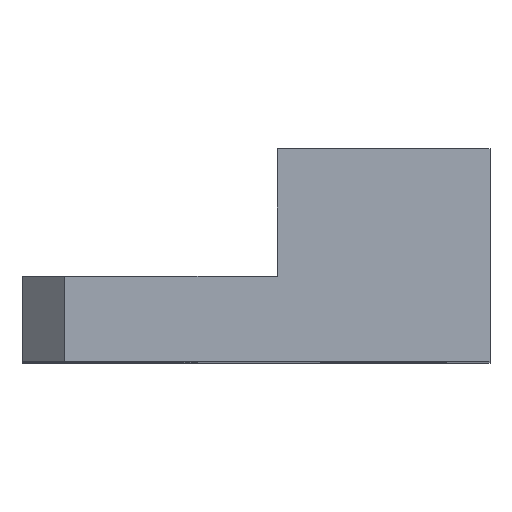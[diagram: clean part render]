
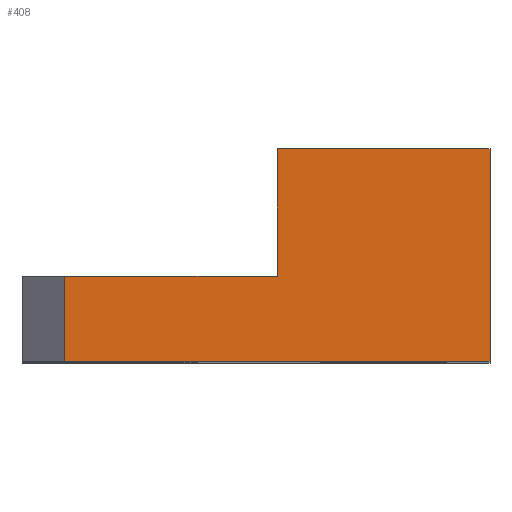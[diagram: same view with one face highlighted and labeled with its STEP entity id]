
A CAD part, top view. The second image highlights one B-rep face of the part: STEP entity #408.
In plain terms, the highlighted planar face has unit normal (0, 0, 1).
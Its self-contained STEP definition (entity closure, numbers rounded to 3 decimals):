
#2 = VERTEX_POINT ( 'NONE', #480 ) ;
#10 = EDGE_CURVE ( 'NONE', #140, #2, #469, .T. ) ;
#139 = EDGE_CURVE ( 'NONE', #148, #140, #724, .T. ) ;
#140 = VERTEX_POINT ( 'NONE', #720 ) ;
#146 = EDGE_CURVE ( 'NONE', #147, #148, #773, .T. ) ;
#147 = VERTEX_POINT ( 'NONE', #769 ) ;
#148 = VERTEX_POINT ( 'NONE', #768 ) ;
#218 = EDGE_CURVE ( 'NONE', #2, #298, #863, .T. ) ;
#298 = VERTEX_POINT ( 'NONE', #985 ) ;
#337 = ORIENTED_EDGE ( 'NONE', *, *, #349, .T. ) ;
#338 = ORIENTED_EDGE ( 'NONE', *, *, #146, .T. ) ;
#349 = EDGE_CURVE ( 'NONE', #350, #147, #1094, .T. ) ;
#350 = VERTEX_POINT ( 'NONE', #1090 ) ;
#408 = ADVANCED_FACE ( 'NONE', ( #1142 ), #1141, .T. ) ;
#409 = EDGE_LOOP ( 'NONE', ( #410, #411, #412, #413, #337, #338 ) ) ;
#410 = ORIENTED_EDGE ( 'NONE', *, *, #139, .T. ) ;
#411 = ORIENTED_EDGE ( 'NONE', *, *, #10, .T. ) ;
#412 = ORIENTED_EDGE ( 'NONE', *, *, #218, .T. ) ;
#413 = ORIENTED_EDGE ( 'NONE', *, *, #414, .F. ) ;
#414 = EDGE_CURVE ( 'NONE', #350, #298, #1204, .T. ) ;
#466 = DIRECTION ( 'NONE',  ( -1., 0., 0. ) ) ;
#467 = VECTOR ( 'NONE', #466, 1000. ) ;
#468 = CARTESIAN_POINT ( 'NONE',  ( -8.069, 10., 0. ) ) ;
#469 = LINE ( 'NONE', #468, #467 ) ;
#480 = CARTESIAN_POINT ( 'NONE',  ( -18.194, 10., 0. ) ) ;
#720 = CARTESIAN_POINT ( 'NONE',  ( -8.194, 10., 0. ) ) ;
#721 = DIRECTION ( 'NONE',  ( 0., -1., 0. ) ) ;
#722 = VECTOR ( 'NONE', #721, 1000. ) ;
#723 = CARTESIAN_POINT ( 'NONE',  ( -8.194, 9.875, 0. ) ) ;
#724 = LINE ( 'NONE', #723, #722 ) ;
#768 = CARTESIAN_POINT ( 'NONE',  ( -8.194, 16., 0. ) ) ;
#769 = CARTESIAN_POINT ( 'NONE',  ( 1.806, 16., 0. ) ) ;
#770 = DIRECTION ( 'NONE',  ( -1., 0., 0. ) ) ;
#771 = VECTOR ( 'NONE', #770, 1000. ) ;
#772 = CARTESIAN_POINT ( 'NONE',  ( -8.069, 16., 0. ) ) ;
#773 = LINE ( 'NONE', #772, #771 ) ;
#860 = DIRECTION ( 'NONE',  ( 0., -1., 0. ) ) ;
#861 = VECTOR ( 'NONE', #860, 1000. ) ;
#862 = CARTESIAN_POINT ( 'NONE',  ( -18.194, 9.875, 0. ) ) ;
#863 = LINE ( 'NONE', #862, #861 ) ;
#985 = CARTESIAN_POINT ( 'NONE',  ( -18.194, 6., 0. ) ) ;
#1090 = CARTESIAN_POINT ( 'NONE',  ( 1.806, 6., 0. ) ) ;
#1091 = DIRECTION ( 'NONE',  ( 0., 1., 0. ) ) ;
#1092 = VECTOR ( 'NONE', #1091, 1000. ) ;
#1093 = CARTESIAN_POINT ( 'NONE',  ( 1.806, 9.875, 0. ) ) ;
#1094 = LINE ( 'NONE', #1093, #1092 ) ;
#1140 = CARTESIAN_POINT ( 'NONE',  ( -8.069, 9.875, 0. ) ) ;
#1141 = PLANE ( 'NONE',  #1207 ) ;
#1142 = FACE_OUTER_BOUND ( 'NONE', #409, .T. ) ;
#1201 = DIRECTION ( 'NONE',  ( -1., 0., 0. ) ) ;
#1202 = VECTOR ( 'NONE', #1201, 1000. ) ;
#1203 = CARTESIAN_POINT ( 'NONE',  ( -20.194, 6., 0. ) ) ;
#1204 = LINE ( 'NONE', #1203, #1202 ) ;
#1205 = DIRECTION ( 'NONE',  ( 1., 0., 0. ) ) ;
#1206 = DIRECTION ( 'NONE',  ( 0., 0., 1. ) ) ;
#1207 = AXIS2_PLACEMENT_3D ( 'NONE', #1140, #1206, #1205 ) ;
